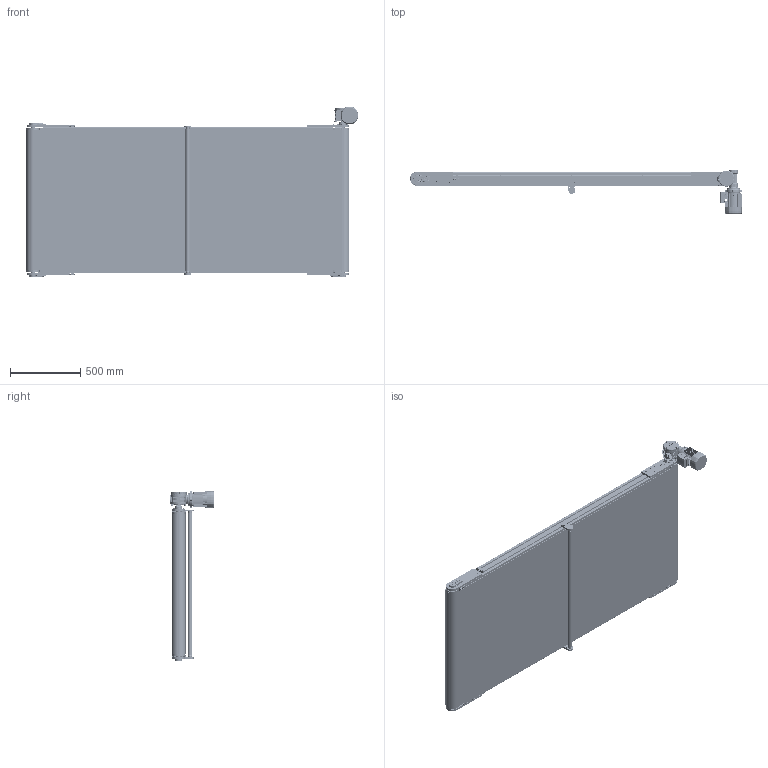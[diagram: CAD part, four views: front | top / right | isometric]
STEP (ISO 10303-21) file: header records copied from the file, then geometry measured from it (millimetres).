
FILE_DESCRIPTION (( 'STEP AP203' ), '1' );
FILE_NAME ('NASTRO_RETTILINEO_TAPPETO.step', '2026-04-29T14:14:17', ( 'Utente Windows' ), ( '' ), 'SwSTEP 2.0', 'SolidWorks 2024', '' );
FILE_SCHEMA (( 'CONFIG_CONTROL_DESIGN' ));
Length unit declared in the file: millimetre
Products named in the file (52): 084.803.003; 084.802.014; LAMIERA_STANDARD; 084.808.003_084.808.003; 25UNI7435; VITI TE UNI 5739_M6x12 UNI 5739; BLOCCO_RINVIO_95_STANDARD_CON TENDINASTRO E CARTER; 084.802.062; 084.802.028; VITE_RONDELLA_M8X20; 084.808.002_084.808.002; CH05P_DX; CHIAVETTE_A 8x7x20 UNI 6604-69; VITE_DADO_M5X12; VITI TCEI UNI 5931_M6x12 UNI 5931; BLOCCO_PERNO_95_RINVIO; BLOCCO_REGGITAPPETO; RULLO_95_Default<A macchina>; CHIAVETTE_A 8x7x70 UNI 6604-69; 084.802.034_084.802.034; TAPPETO_STANDARD; NASTRO_RETTILINEO_TAPPETO; VITI TE UNI 5739_M8x12 UNI 5739; RONDELLE FASCIA LARGA UNI 6593_8.4x32 UNI 6593; 084.802.067_Default<A macchina>; BLOCCO_PERNO_95_49; 084.810.003; 084.803.017; BLOCCO_BRACCIO_CH05P_CH05P; BLOCCO_TRAINO_95_STANDARD_49_DX_CON TENDINASTRO E SENZA CARTER; 084.808.013; 084.802.060_Default<A macchina>; VITI TCEI UNI 5931_M4x25 UNI 5931; 30UNI7435; 084.303.001; TELAIO_95_STANDARD_Default<A macchina>; 084.302.000 DADI ALUSIC 13x13-1_084.302.004; 084.812.003; BLOCCO_TRAINO_95_STANDARD_CON TENDINASTRO E CARTER; RULLO_REGGITAPPETO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
Assembly tree (131 placements, depth 4):
  NASTRO_RETTILINEO_TAPPETO
    TAPPETO_STANDARD
    TELAIO_95_STANDARD_Default<A macchina>
    LAMIERA_STANDARD
    RULLO_95_Default<A macchina>  x2
    BLOCCO_PERNO_95_49
      084.812.002
      084.810.003
      CHIAVETTE_A 8x7x70 UNI 6604-69
      CHIAVETTE_A 8x7x20 UNI 6604-69
      RONDELLE FASCIA LARGA UNI 6593_8.4x32 UNI 6593
      VITI TE UNI 5739_M8x16 UNI 5739
      25UNI7435
      30UNI7435
    BLOCCO_TRAINO_95_STANDARD_49_DX_CON TENDINASTRO E SENZA CARTER
      084.808.003_084.808.003
      084.302.060  x2
      084.802.034_084.802.034
      084.301.000 VITI ALUSIC_084.301.003  x6
      084.802.067_Default<A macchina>
      VITI TCEI UNI 5931_M4x25 UNI 5931  x2
      BLOCCO_BRACCIO_CH05P_CH05P
        084.808.013
        084.802.062
        084.802.060_Default<A macchina>
        VITI TE UNI 5739_M8x12 UNI 5739  x4
        VITI TE UNI 5739_M6x12 UNI 5739  x4
        084.803.017
        VITI TCEI UNI 5931_M6x12 UNI 5931  x4
    BLOCCO_PERNO_95_RINVIO  x3
      084.812.003
      084.810.003
      30UNI7435
    BLOCCO_TRAINO_95_STANDARD_CON TENDINASTRO E CARTER
      084.808.002_084.808.002
      084.302.060  x2
      084.802.019_084.802.019
      084.301.000 VITI ALUSIC_084.301.003  x6
      VITI TCEI UNI 5931_M4x25 UNI 5931  x2
      084.802.071
      084.802.068
      VITI TSEI UNI 5933_M4x12 UNI 5933  x2
    BLOCCO_RINVIO_95_STANDARD_CON TENDINASTRO E CARTER  x2
      084.808.002_084.808.002
      084.803.003
      084.302.060
      084.802.019_084.802.019
      VITI TSEI UNI 5933_M4x12 UNI 5933
      084.302.000 DADI ALUSIC 13x13-1_084.302.004
      084.301.000 VITI ALUSIC_084.301.003
      084.802.071
    VITE_RONDELLA_M8X20  x17
      084.303.001
      084.301.000 VITI ALUSIC_084.301.003
    VITE_DADO_M5X12  x10
      084.302.000 DADI ALUSIC 13x13-1_084.302.007
      VITI TSEI UNI 5933_M5x12 UNI 5933
    BLOCCO_REGGITAPPETO  x2
      084.301.000 VITI ALUSIC_084.301.003
      084.302.000 DADI ALUSIC 13x13-1_084.302.004
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Bounding box: 2359.8 x 316.5 x 1208.7 mm (x, y, z)
Volume: 30425252.7 mm3; surface area: 24916903 mm2
Topology: 204 solids, 209 shells, 9329 faces, 24025 edges, 15254 vertices
Faces by surface type: plane 4517, cylinder 2499, bspline 915, cone 858, torus 476, sphere 64
Entity records: 211106 total; most frequent: CARTESIAN_POINT 73628, ORIENTED_EDGE 28404, DIRECTION 25760, EDGE_CURVE 14202, AXIS2_PLACEMENT_3D 9138, VERTEX_POINT 9061, LINE 7484, VECTOR 7484
